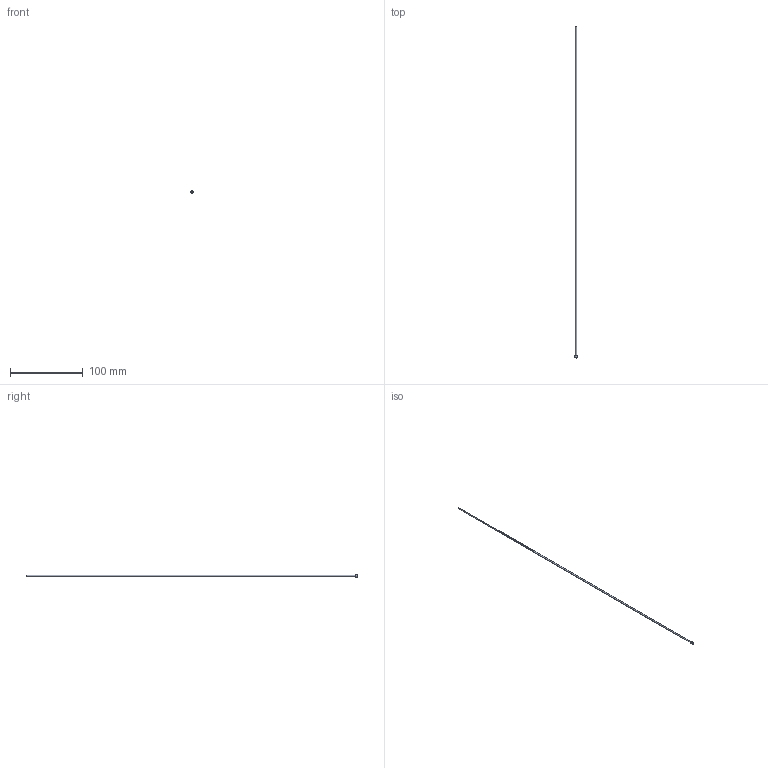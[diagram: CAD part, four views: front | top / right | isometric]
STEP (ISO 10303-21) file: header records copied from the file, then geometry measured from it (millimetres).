
FILE_DESCRIPTION(/* description */ (''),/* implementation_level */ '2;1');
FILE_NAME(/* name */ 'C:/Users/drich/Desktop/HF072T-18 v1.step',/* time_stamp */ '2019-12-30T13:29:31-06:00',/* author */ (''),/* organization */ (''),/* preprocessor_version */ 'ST-DEVELOPER v18',/* originating_system */ 'Autodesk Translation Framework v8.12.0.6',/* authorisation */ '');
FILE_SCHEMA (('AUTOMOTIVE_DESIGN { 1 0 10303 214 3 1 1 }'));
Length unit declared in the file: inch
Products named in the file (1): HF072T-18
Bounding box: 3.23 x 457.2 x 3.23 mm (x, y, z)
Volume: 384.5 mm3; surface area: 4841.2 mm2
Topology: 1 solids, 1 shells, 10 faces, 22 edges, 16 vertices
Faces by surface type: cylinder 4, plane 4, cone 1, torus 1
Full cylindrical faces by diameter (mm): 1.524 x1, 1.829 x1, 3.096 x1, 3.226 x1
Entity records: 342 total; most frequent: DIRECTION 61, CARTESIAN_POINT 51, ORIENTED_EDGE 44, AXIS2_PLACEMENT_3D 28, EDGE_CURVE 22, VERTEX_POINT 18, CIRCLE 17, EDGE_LOOP 16
